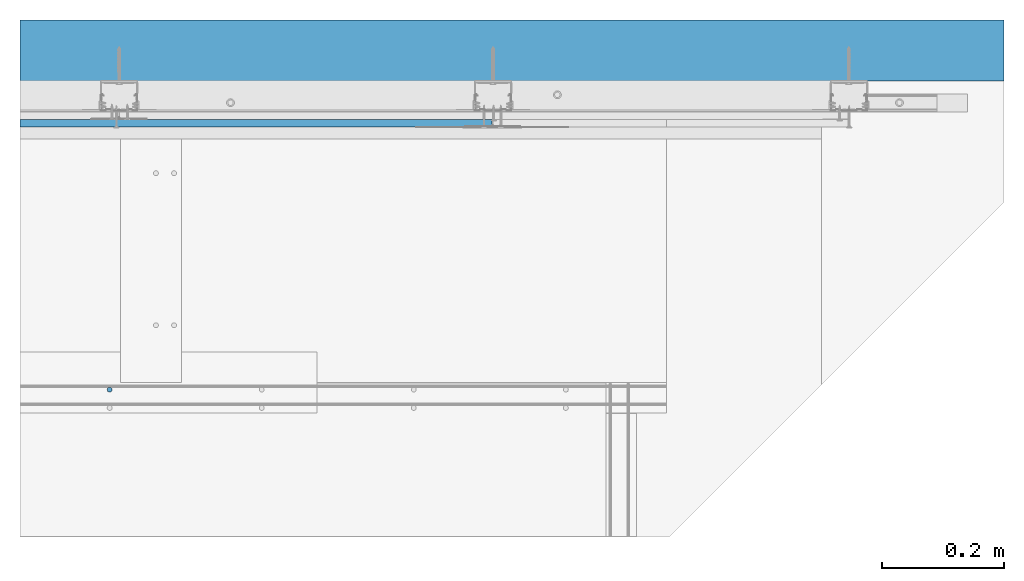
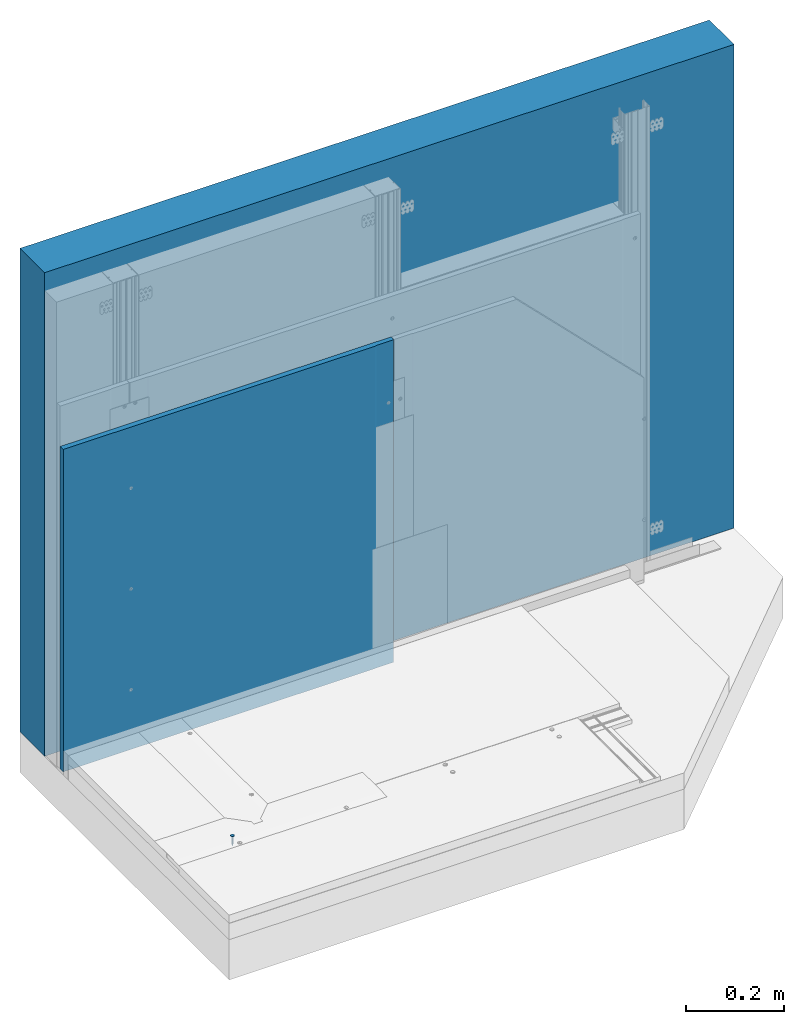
# One storey, part 13 of 47: 2 walls, 1 slab.
"""IFC2X3 building model written with IfcOpenShell, lengths in millimetres."""

from ifc_helpers import new_model, entity, si_unit, converted_unit, direction, frame, origin, origin_with_axes, place, context, project, spatial, faceted_brep, element, save


model = new_model("IFC2X3")

# Units and contexts
model_context = context("Model", 3, precision=1e-05, world=origin(), true_north=direction((0.0, 1.0, 0.0)))
ifc_project = project(units=[si_unit("LENGTHUNIT", "METRE", prefix="MILLI"), si_unit("AREAUNIT", "SQUARE_METRE"), si_unit("VOLUMEUNIT", "CUBIC_METRE"), converted_unit("PLANEANGLEUNIT", "DEGREE", entity("IfcPlaneAngleMeasure", 0.01745), si_unit("PLANEANGLEUNIT", "RADIAN"), dimensions=[0, 0, 0, 0, 0, 0, 0]), si_unit("SOLIDANGLEUNIT", "STERADIAN"), si_unit("MASSUNIT", "GRAM"), si_unit("TIMEUNIT", "SECOND"), si_unit("THERMODYNAMICTEMPERATUREUNIT", "DEGREE_CELSIUS"), si_unit("LUMINOUSINTENSITYUNIT", "LUMEN")], contexts=[model_context])

# Site, building, storey
site_placement = place(None, origin_with_axes())
site = spatial("IfcSite", under=ifc_project, at=site_placement, Name="Default Site", CompositionType="ELEMENT")
building_placement = place(site_placement, origin_with_axes())
building = spatial("IfcBuilding", under=site, at=building_placement, Name="Default Building", CompositionType="ELEMENT")
storey_placement = place(building_placement, origin_with_axes())
storey = spatial("IfcBuildingStorey", under=building, at=storey_placement, Name="Default Building Storey", CompositionType="ELEMENT", Elevation=0.0)

# Slab
slab_placement = place(storey_placement, frame((2135.048962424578, 958.3800775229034, -3328.636918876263), z_axis=(-3.700634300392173e-13, 1.0, -1.897141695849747e-12), x_axis=(-1.0, -3.700634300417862e-13, -1.354137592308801e-12)))
element("IfcSlab", 1, at=slab_placement, inside=storey, Name="Wkręt RIGIPS Rigidur 3,9x19 mm", context=model_context, shape_type="Brep", body=[
    faceted_brep([(-141.5377463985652, 3390.556721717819, 555.8000000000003), (-141.5377463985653, 3391.020944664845, 555.8000000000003), (-141.4875329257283, 3391.020944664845, 555.1619773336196), (-141.4875329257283, 3390.556721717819, 555.1619773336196), (-141.3381289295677, 3391.020944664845, 554.5396649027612), (-141.3381289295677, 3390.556721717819, 554.5396649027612), (-141.0932132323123, 3391.020944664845, 553.9483861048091), (-141.0932132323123, 3390.556721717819, 553.9483861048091), (-140.7588164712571, 3391.020944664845, 553.4027001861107), (-140.7588164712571, 3390.556721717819, 553.4027001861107), (-140.3431726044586, 3391.020944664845, 552.9160437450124), (-140.4541727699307, 3390.556721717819, 553.0314907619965), (-140.1080097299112, 3390.556721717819, 552.6986614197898), (-139.8565161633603, 3391.020944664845, 552.5003998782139), (-139.7251262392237, 3390.556721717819, 552.4088262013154), (-139.310830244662, 3391.020944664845, 552.1660031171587), (-139.310830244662, 3390.556721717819, 552.1660031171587), (-138.8708651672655, 3390.556721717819, 551.9735584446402), (-138.7195514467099, 3391.020944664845, 551.9210874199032), (-138.4113302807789, 3390.556721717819, 551.8341600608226), (-137.9385961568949, 3390.556721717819, 551.7497404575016), (-138.0972390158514, 3391.020944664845, 551.7716834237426), (-137.4592163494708, 3391.020944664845, 551.7214699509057), (-137.4592163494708, 3390.556721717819, 551.7214699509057), (-136.8211936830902, 3391.020944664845, 551.7716834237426), (-136.8211936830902, 3390.556721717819, 551.7716834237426), (-136.1988812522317, 3391.020944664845, 551.9210874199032), (-136.1988812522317, 3390.556721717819, 551.9210874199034), (-135.6076024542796, 3391.020944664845, 552.1660031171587), (-135.6076024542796, 3390.556721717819, 552.1660031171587), (-135.0619165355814, 3391.020944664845, 552.5003998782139), (-135.0619165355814, 3390.556721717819, 552.5003998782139), (-134.575260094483, 3391.020944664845, 552.9160437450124), (-134.575260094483, 3390.556721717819, 552.9160437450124), (-134.1596162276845, 3391.020944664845, 553.4027001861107), (-134.1596162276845, 3390.556721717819, 553.4027001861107), (-133.8252194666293, 3391.020944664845, 553.9483861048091), (-133.8252194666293, 3390.556721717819, 553.9483861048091), (-133.5803037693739, 3391.020944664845, 554.5396649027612), (-133.5803037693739, 3390.556721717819, 554.5396649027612), (-133.4308997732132, 3391.020944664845, 556.4380226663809), (-133.4308997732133, 3390.556721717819, 556.4380226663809), (-133.3806863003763, 3390.556721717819, 555.8000000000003), (-133.3806863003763, 3391.020944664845, 555.8000000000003), (-133.4308997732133, 3390.556721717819, 555.1619773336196), (-133.4308997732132, 3391.020944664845, 555.1619773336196), (-133.5803037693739, 3391.020944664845, 557.0603350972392), (-133.5803037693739, 3390.556721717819, 557.0603350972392), (-133.8252194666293, 3391.020944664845, 557.6516138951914), (-133.8252194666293, 3390.556721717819, 557.6516138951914), (-134.1596162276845, 3391.020944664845, 558.1972998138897), (-134.1596162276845, 3390.556721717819, 558.1972998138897), (-134.575260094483, 3391.020944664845, 558.683956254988), (-134.575260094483, 3390.556721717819, 558.683956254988), (-135.0619165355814, 3391.020944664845, 559.0996001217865), (-135.0619165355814, 3390.556721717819, 559.0996001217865), (-135.6076024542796, 3391.020944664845, 559.4339968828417), (-135.6076024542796, 3390.556721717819, 559.4339968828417), (-136.1988812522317, 3391.020944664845, 559.6789125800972), (-136.1988812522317, 3390.556721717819, 559.6789125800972), (-136.8211936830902, 3391.020944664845, 559.8283165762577), (-136.8211936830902, 3390.556721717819, 559.8283165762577), (-137.4592163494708, 3391.020944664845, 559.8785300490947), (-137.4592163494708, 3390.556721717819, 559.8785300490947), (-138.0972390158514, 3391.020944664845, 559.8283165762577), (-138.0972390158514, 3390.556721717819, 559.8283165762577), (-138.7195514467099, 3391.020944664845, 559.6789125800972), (-138.7195514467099, 3390.556721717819, 559.6789125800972), (-139.310830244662, 3391.020944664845, 559.4339968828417), (-139.310830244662, 3390.556721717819, 559.4339968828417), (-139.8565161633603, 3391.020944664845, 559.0996001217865), (-139.8565161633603, 3390.556721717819, 559.0996001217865), (-140.3431726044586, 3391.020944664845, 558.683956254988), (-140.3431726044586, 3390.556721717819, 558.683956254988), (-140.7588164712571, 3391.020944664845, 558.1972998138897), (-140.7588164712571, 3390.556721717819, 558.1972998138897), (-141.0932132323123, 3391.020944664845, 557.6516138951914), (-141.0932132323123, 3390.556721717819, 557.6516138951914), (-141.3381289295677, 3391.020944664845, 557.0603350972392), (-141.3381289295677, 3390.556721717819, 557.0603350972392), (-141.4875329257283, 3391.020944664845, 556.4380226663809), (-141.4875329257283, 3390.556721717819, 556.4380226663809), (-137.80606154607, 3388.229732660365, 554.5055560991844), (-137.4592163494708, 3387.475459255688, 554.5693795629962), (-137.6517277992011, 3387.475459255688, 554.5845305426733), (-137.4592163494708, 3388.229732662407, 554.4598930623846), (-137.8394989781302, 3387.475459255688, 554.6296104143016), (-138.1292698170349, 3388.229732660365, 554.639433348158), (-138.0179063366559, 3387.475459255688, 554.7035091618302), (-138.1825568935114, 3387.475459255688, 554.804407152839), (-138.4068150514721, 3388.229732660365, 554.8524012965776), (-138.3293964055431, 3387.475459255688, 554.929819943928), (-138.6197830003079, 3388.229732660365, 555.1299465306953), (-138.4548091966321, 3387.475459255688, 555.0766594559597), (-138.5557071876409, 3387.475459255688, 555.2413100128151), (-138.7536602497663, 3388.229732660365, 555.4531548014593), (-138.6296059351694, 3387.475459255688, 555.4197173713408), (-138.6746858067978, 3387.475459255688, 555.60748855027), (-138.7993232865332, 3388.229732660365, 555.7999999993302), (-138.6898367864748, 3387.475459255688, 555.8000000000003), (-138.753660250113, 3388.229732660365, 556.1468451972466), (-138.6746858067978, 3387.475459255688, 555.9925114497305), (-138.6296059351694, 3387.475459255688, 556.1802826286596), (-138.619783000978, 3388.229732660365, 556.4700534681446), (-138.5557071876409, 3387.475459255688, 556.3586899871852), (-138.4548091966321, 3387.475459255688, 556.5233405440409), (-138.4068150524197, 3388.229732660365, 556.7475987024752), (-138.3293964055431, 3387.475459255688, 556.6701800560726), (-138.1292698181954, 3388.229732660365, 556.9605666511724), (-138.1825568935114, 3387.475459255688, 556.7955928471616), (-138.0179063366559, 3387.475459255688, 556.8964908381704), (-137.8060615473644, 3388.229732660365, 557.0944439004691), (-137.8394989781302, 3387.475459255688, 556.9703895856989), (-137.6517277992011, 3387.475459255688, 557.0154694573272), (-137.4592163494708, 3388.229732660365, 557.1401069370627), (-137.4592163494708, 3387.475459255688, 557.0306204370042), (-137.1123711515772, 3388.229732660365, 557.0944439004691), (-137.2667048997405, 3387.475459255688, 557.0154694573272), (-137.0789337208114, 3387.475459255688, 556.9703895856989), (-136.7891628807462, 3388.229732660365, 556.9605666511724), (-136.9005263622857, 3387.475459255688, 556.8964908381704), (-136.7358758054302, 3387.475459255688, 556.7955928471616), (-136.5116176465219, 3388.229732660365, 556.7475987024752), (-136.5890362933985, 3387.475459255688, 556.6701800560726), (-136.2986496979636, 3388.229732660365, 556.4700534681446), (-136.4636235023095, 3387.475459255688, 556.5233405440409), (-136.3627255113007, 3387.475459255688, 556.3586899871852), (-136.1647724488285, 3388.229732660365, 556.1468451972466), (-136.2888267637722, 3387.475459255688, 556.1802826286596), (-136.2437468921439, 3387.475459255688, 555.9925114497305), (-136.1191094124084, 3388.229732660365, 555.7999999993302), (-136.2285959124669, 3387.475459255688, 555.8000000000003), (-136.1647724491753, 3388.229732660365, 555.4531548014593), (-136.2437468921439, 3387.475459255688, 555.60748855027), (-136.2888267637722, 3387.475459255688, 555.4197173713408), (-136.2986496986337, 3388.229732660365, 555.1299465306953), (-136.3627255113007, 3387.475459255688, 555.2413100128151), (-136.4636235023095, 3387.475459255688, 555.0766594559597), (-136.5116176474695, 3388.229732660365, 554.8524012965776), (-136.5890362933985, 3387.475459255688, 554.929819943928), (-136.7891628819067, 3388.229732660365, 554.639433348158), (-136.7358758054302, 3387.475459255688, 554.804407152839), (-136.9005263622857, 3387.475459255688, 554.7035091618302), (-137.1123711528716, 3388.229732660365, 554.5055560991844), (-137.0789337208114, 3387.475459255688, 554.6296104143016), (-137.2667048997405, 3387.475459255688, 554.5845305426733), (-137.4592163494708, 3388.936142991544, 554.1737111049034), (-137.8801308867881, 3388.936142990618, 554.229125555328), (-138.2723607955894, 3388.936142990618, 554.3915925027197), (-138.6091762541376, 3388.936142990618, 554.6500400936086), (-138.8676238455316, 3388.936142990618, 554.9868555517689), (-139.0300907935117, 3388.936142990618, 555.3790854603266), (-139.0855052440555, 3388.936142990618, 555.7999999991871), (-139.0300907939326, 3388.936142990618, 556.2209145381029), (-138.8676238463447, 3388.936142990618, 556.6131444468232), (-138.6091762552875, 3388.936142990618, 556.9499599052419), (-138.2723607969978, 3388.936142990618, 557.2084074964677), (-137.880130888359, 3388.936142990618, 557.3708744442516), (-137.4592163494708, 3388.936142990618, 557.426288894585), (-137.0383018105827, 3388.936142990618, 557.3708744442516), (-136.6460719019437, 3388.936142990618, 557.2084074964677), (-136.3092564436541, 3388.936142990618, 556.9499599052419), (-136.0508088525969, 3388.936142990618, 556.6131444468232), (-135.8883419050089, 3388.936142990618, 556.2209145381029), (-135.8329274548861, 3388.936142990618, 555.7999999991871), (-135.8883419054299, 3388.936142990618, 555.3790854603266), (-136.05080885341, 3388.936142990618, 554.9868555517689), (-136.309256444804, 3388.936142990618, 554.6500400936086), (-136.6460719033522, 3388.936142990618, 554.3915925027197), (-137.0383018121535, 3388.936142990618, 554.229125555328), (-137.4592163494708, 3389.553938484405, 553.7273431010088), (-137.9956594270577, 3389.553938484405, 553.7979671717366), (-138.4955447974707, 3389.553938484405, 554.005026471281), (-138.9248060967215, 3389.553938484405, 554.3344102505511), (-139.2541898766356, 3389.553938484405, 554.7636715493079), (-139.4612491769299, 3389.553938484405, 555.2635569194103), (-139.5318732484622, 3389.553938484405, 555.7999999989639), (-139.4612491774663, 3389.553938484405, 556.3364430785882), (-139.2541898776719, 3389.553938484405, 556.8363284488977), (-138.9248060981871, 3389.553938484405, 557.2655897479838), (-138.4955447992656, 3389.553938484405, 557.594973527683), (-137.9956594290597, 3389.553938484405, 557.8020328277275), (-137.4592163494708, 3389.553938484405, 557.8726568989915), (-136.9227732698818, 3389.553938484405, 557.8020328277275), (-136.4228878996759, 3389.553938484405, 557.594973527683), (-135.9936266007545, 3389.553938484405, 557.2655897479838), (-135.6642428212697, 3389.553938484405, 556.8363284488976), (-135.4571835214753, 3389.553938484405, 556.3364430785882), (-135.3865594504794, 3389.553938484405, 555.7999999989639), (-135.4571835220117, 3389.553938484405, 555.2635569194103), (-135.664242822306, 3389.553938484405, 554.7636715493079), (-135.9936266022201, 3389.553938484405, 554.3344102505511), (-136.4228879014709, 3389.553938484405, 554.005026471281), (-136.9227732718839, 3389.553938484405, 553.7979671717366), (-137.4592163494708, 3390.047479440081, 553.1465393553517), (-138.1459824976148, 3390.047479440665, 553.2369538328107), (-138.7859466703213, 3390.047479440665, 553.5020356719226), (-139.3354963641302, 3390.047479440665, 553.9237199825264), (-139.7571806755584, 3390.047479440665, 554.4732696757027), (-140.0222625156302, 3390.047479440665, 555.1132338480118), (-140.1126769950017, 3390.047479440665, 555.7999999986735), (-140.0222625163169, 3390.047479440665, 556.4867661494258), (-139.7571806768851, 3390.047479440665, 557.1267303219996), (-139.3354963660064, 3390.047479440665, 557.6762800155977), (-138.7859466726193, 3390.047479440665, 558.0979643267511), (-138.1459825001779, 3390.047479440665, 558.3630461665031), (-137.4592163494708, 3390.047479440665, 558.4534606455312), (-136.7724501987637, 3390.047479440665, 558.3630461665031), (-136.1324860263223, 3390.047479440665, 558.0979643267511), (-135.5829363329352, 3390.047479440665, 557.6762800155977), (-135.1612520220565, 3390.047479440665, 557.1267303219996), (-134.8961701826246, 3390.047479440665, 556.4867661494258), (-134.8057557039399, 3390.047479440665, 555.7999999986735), (-134.8961701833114, 3390.047479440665, 555.1132338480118), (-135.1612520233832, 3390.047479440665, 554.4732696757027), (-135.5829363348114, 3390.047479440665, 553.9237199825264), (-136.1324860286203, 3390.047479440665, 553.5020356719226), (-136.7724502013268, 3390.047479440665, 553.2369538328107), (-137.4592163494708, 3390.388294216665, 552.4648055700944), (-138.3224281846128, 3390.388294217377, 552.578449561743), (-139.1268135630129, 3390.388294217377, 552.9116368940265), (-139.8175549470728, 3390.388294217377, 553.4416613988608), (-140.3475794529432, 3390.388294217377, 554.1324027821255), (-140.6807667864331, 3390.388294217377, 554.9367881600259), (-140.7944107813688, 3390.388294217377, 555.7999999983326), (-140.6807667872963, 3390.388294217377, 556.6632118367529), (-140.3475794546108, 3390.388294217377, 557.4675972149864), (-139.8175549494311, 3390.388294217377, 558.1583385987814), (-139.1268135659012, 3390.388294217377, 558.6883631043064), (-138.3224281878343, 3390.388294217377, 559.0215504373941), (-137.4592163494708, 3390.388294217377, 559.1351944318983), (-136.5960045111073, 3390.388294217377, 559.0215504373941), (-135.7916191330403, 3390.388294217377, 558.6883631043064), (-135.1008777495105, 3390.388294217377, 558.1583385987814), (-134.5708532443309, 3390.388294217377, 557.4675972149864), (-134.2376659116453, 3390.388294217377, 556.6632118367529), (-134.1240219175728, 3390.388294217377, 555.7999999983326), (-134.2376659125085, 3390.388294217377, 554.9367881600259), (-134.5708532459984, 3390.388294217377, 554.1324027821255), (-135.1008777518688, 3390.388294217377, 553.4416613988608), (-135.7916191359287, 3390.388294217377, 552.9116368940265), (-136.5960045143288, 3390.388294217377, 552.578449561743), (-138.6898367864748, 3370.55807436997, 555.8000000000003), (-138.6746858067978, 3370.55807436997, 555.60748855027), (-138.6296059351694, 3370.55807436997, 555.4197173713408), (-138.5557071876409, 3370.55807436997, 555.2413100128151), (-138.4548091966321, 3370.55807436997, 555.0766594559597), (-138.3293964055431, 3370.55807436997, 554.929819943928), (-138.1825568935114, 3370.55807436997, 554.804407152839), (-138.0179063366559, 3370.55807436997, 554.7035091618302), (-137.8394989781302, 3370.55807436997, 554.6296104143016), (-137.6517277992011, 3370.55807436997, 554.5845305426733), (-137.4592163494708, 3370.55807436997, 554.5693795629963), (-137.2667048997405, 3370.55807436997, 554.5845305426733), (-137.0789337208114, 3370.55807436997, 554.6296104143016), (-136.9005263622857, 3370.55807436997, 554.7035091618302), (-136.7358758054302, 3370.55807436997, 554.804407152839), (-136.5890362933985, 3370.55807436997, 554.929819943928), (-136.4636235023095, 3370.55807436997, 555.0766594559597), (-136.3627255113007, 3370.55807436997, 555.2413100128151), (-136.2888267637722, 3370.55807436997, 555.4197173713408), (-136.2437468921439, 3370.55807436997, 555.9925114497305), (-136.2285959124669, 3370.55807436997, 555.8000000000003), (-136.2437468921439, 3370.55807436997, 555.60748855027), (-136.2888267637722, 3370.55807436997, 556.1802826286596), (-136.3627255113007, 3370.55807436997, 556.3586899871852), (-136.4636235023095, 3370.55807436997, 556.5233405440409), (-136.5890362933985, 3370.55807436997, 556.6701800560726), (-136.7358758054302, 3370.55807436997, 556.7955928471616), (-136.9005263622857, 3370.55807436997, 556.8964908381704), (-137.0789337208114, 3370.55807436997, 556.9703895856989), (-137.2667048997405, 3370.55807436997, 557.0154694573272), (-137.4592163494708, 3370.55807436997, 557.0306204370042), (-137.6517277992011, 3370.55807436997, 557.0154694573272), (-137.8394989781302, 3370.55807436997, 556.9703895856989), (-138.0179063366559, 3370.55807436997, 556.8964908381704), (-138.1825568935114, 3370.55807436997, 556.7955928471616), (-138.3293964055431, 3370.55807436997, 556.6701800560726), (-138.4548091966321, 3370.55807436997, 556.5233405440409), (-138.5557071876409, 3370.55807436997, 556.3586899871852), (-138.6296059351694, 3370.55807436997, 556.1802826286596), (-138.6746858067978, 3370.55807436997, 555.9925114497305), (-137.4592163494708, 3366.021033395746, 555.8000000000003), (-139.9592163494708, 3391.020944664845, 556.3000000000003), (-137.9592163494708, 3391.020944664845, 556.3000000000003), (-139.9592163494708, 3391.020944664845, 555.3000000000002), (-137.9592163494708, 3391.020944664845, 555.3000000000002), (-137.9592163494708, 3391.020944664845, 553.3000000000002), (-136.9592163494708, 3391.020944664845, 553.3000000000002), (-136.9592163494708, 3391.020944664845, 555.3000000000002), (-134.9592163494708, 3391.020944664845, 555.3000000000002), (-134.9592163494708, 3391.020944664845, 556.3000000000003), (-136.9592163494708, 3391.020944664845, 556.3000000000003), (-136.9592163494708, 3391.020944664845, 558.3000000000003), (-137.9592163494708, 3391.020944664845, 558.3000000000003), (-136.9592163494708, 3390.128974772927, 556.3000000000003), (-134.9592163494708, 3390.128974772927, 556.3000000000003), (-134.9592163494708, 3390.128974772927, 555.3000000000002), (-136.9592163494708, 3390.128974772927, 555.3000000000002), (-136.9592163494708, 3390.128974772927, 553.3000000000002), (-137.9592163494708, 3390.128974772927, 553.3000000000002), (-137.9592163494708, 3390.128974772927, 555.3000000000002), (-139.9592163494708, 3390.128974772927, 555.3000000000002), (-139.9592163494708, 3390.128974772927, 556.3000000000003), (-137.9592163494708, 3390.128974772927, 556.3000000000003), (-137.9592163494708, 3390.128974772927, 558.3000000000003), (-136.9592163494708, 3390.128974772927, 558.3000000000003)], [[[0, 1, 2, 3]], [[4, 5, 3, 2]], [[6, 7, 5, 4]], [[7, 6, 8, 9]], [[8, 10, 9]], [[10, 11, 9]], [[12, 11, 13]], [[11, 10, 13]], [[13, 14, 12]], [[13, 15, 14]], [[15, 16, 14]], [[17, 16, 18]], [[16, 15, 18]], [[18, 19, 17]], [[20, 19, 21]], [[19, 18, 21]], [[21, 22, 20]], [[22, 23, 20]], [[23, 22, 24, 25]], [[26, 27, 25, 24]], [[28, 29, 27, 26]], [[29, 28, 30, 31]], [[32, 33, 31, 30]], [[33, 32, 34, 35]], [[36, 37, 35, 34]], [[38, 39, 37, 36]], [[40, 41, 42, 43]], [[43, 42, 44, 45]], [[39, 38, 45, 44]], [[46, 47, 41, 40]], [[48, 49, 47, 46]], [[49, 48, 50, 51]], [[52, 53, 51, 50]], [[53, 52, 54, 55]], [[56, 57, 55, 54]], [[58, 59, 57, 56]], [[59, 58, 60, 61]], [[62, 63, 61, 60]], [[63, 62, 64, 65]], [[66, 67, 65, 64]], [[68, 69, 67, 66]], [[69, 68, 70, 71]], [[72, 73, 71, 70]], [[73, 72, 74, 75]], [[76, 77, 75, 74]], [[78, 79, 77, 76]], [[79, 78, 80, 81]], [[1, 0, 81, 80]], [[82, 83, 84]], [[82, 85, 83]], [[84, 86, 82]], [[82, 86, 87]], [[88, 87, 86]], [[87, 88, 89]], [[89, 90, 87]], [[89, 91, 90]], [[92, 91, 93]], [[92, 90, 91]], [[93, 94, 92]], [[92, 94, 95]], [[96, 95, 94]], [[95, 96, 97]], [[97, 98, 95]], [[97, 99, 98]], [[100, 99, 101]], [[100, 98, 99]], [[101, 102, 100]], [[100, 102, 103]], [[104, 103, 102]], [[103, 104, 105]], [[105, 106, 103]], [[105, 107, 106]], [[108, 107, 109]], [[108, 106, 107]], [[109, 110, 108]], [[108, 110, 111]], [[112, 111, 110]], [[111, 112, 113]], [[113, 114, 111]], [[113, 115, 114]], [[116, 115, 117]], [[116, 114, 115]], [[117, 118, 116]], [[116, 118, 119]], [[120, 119, 118]], [[119, 120, 121]], [[121, 122, 119]], [[121, 123, 122]], [[124, 123, 125]], [[124, 122, 123]], [[125, 126, 124]], [[124, 126, 127]], [[128, 127, 126]], [[127, 128, 129]], [[129, 130, 127]], [[129, 131, 130]], [[132, 131, 133]], [[132, 130, 131]], [[133, 134, 132]], [[132, 134, 135]], [[136, 135, 134]], [[135, 136, 137]], [[137, 138, 135]], [[137, 139, 138]], [[140, 139, 141]], [[140, 138, 139]], [[141, 142, 140]], [[140, 142, 143]], [[144, 143, 142]], [[143, 144, 145]], [[145, 85, 143]], [[145, 83, 85]], [[146, 85, 147]], [[82, 147, 85]], [[87, 148, 147, 82]], [[90, 149, 148, 87]], [[92, 150, 149, 90]], [[95, 151, 150, 92]], [[98, 152, 151, 95]], [[100, 153, 152, 98]], [[103, 154, 153, 100]], [[106, 155, 154, 103]], [[108, 156, 155, 106]], [[111, 157, 156, 108]], [[114, 158, 157, 111]], [[116, 159, 158, 114]], [[119, 160, 159, 116]], [[122, 161, 160, 119]], [[124, 162, 161, 122]], [[127, 163, 162, 124]], [[130, 164, 163, 127]], [[132, 165, 164, 130]], [[135, 166, 165, 132]], [[138, 167, 166, 135]], [[140, 168, 167, 138]], [[143, 169, 168, 140]], [[143, 85, 169]], [[146, 169, 85]], [[170, 146, 171]], [[147, 171, 146]], [[148, 172, 171, 147]], [[149, 173, 172, 148]], [[150, 174, 173, 149]], [[151, 175, 174, 150]], [[152, 176, 175, 151]], [[153, 177, 176, 152]], [[154, 178, 177, 153]], [[155, 179, 178, 154]], [[156, 180, 179, 155]], [[157, 181, 180, 156]], [[158, 182, 181, 157]], [[159, 183, 182, 158]], [[160, 184, 183, 159]], [[161, 185, 184, 160]], [[162, 186, 185, 161]], [[163, 187, 186, 162]], [[164, 188, 187, 163]], [[165, 189, 188, 164]], [[166, 190, 189, 165]], [[167, 191, 190, 166]], [[168, 192, 191, 167]], [[169, 193, 192, 168]], [[169, 146, 193]], [[170, 193, 146]], [[194, 170, 195]], [[171, 195, 170]], [[172, 196, 195, 171]], [[173, 197, 196, 172]], [[174, 198, 197, 173]], [[175, 199, 198, 174]], [[176, 200, 199, 175]], [[177, 201, 200, 176]], [[178, 202, 201, 177]], [[179, 203, 202, 178]], [[180, 204, 203, 179]], [[181, 205, 204, 180]], [[182, 206, 205, 181]], [[183, 207, 206, 182]], [[184, 208, 207, 183]], [[185, 209, 208, 184]], [[186, 210, 209, 185]], [[187, 211, 210, 186]], [[188, 212, 211, 187]], [[189, 213, 212, 188]], [[190, 214, 213, 189]], [[191, 215, 214, 190]], [[192, 216, 215, 191]], [[193, 217, 216, 192]], [[193, 170, 217]], [[194, 217, 170]], [[218, 19, 20]], [[218, 219, 19]], [[20, 23, 218]], [[218, 194, 219]], [[195, 219, 194]], [[219, 16, 17]], [[219, 220, 16]], [[17, 19, 219]], [[196, 220, 219, 195]], [[221, 11, 12]], [[220, 12, 14]], [[220, 221, 12]], [[14, 16, 220]], [[197, 221, 220, 196]], [[222, 7, 9]], [[9, 221, 222]], [[9, 11, 221]], [[198, 222, 221, 197]], [[5, 7, 223]], [[222, 223, 7]], [[199, 223, 222, 198]], [[223, 0, 3]], [[223, 224, 0]], [[3, 5, 223]], [[200, 224, 223, 199]], [[225, 79, 81]], [[81, 224, 225]], [[81, 0, 224]], [[201, 225, 224, 200]], [[225, 226, 77, 79]], [[202, 226, 225, 201]], [[226, 73, 75]], [[226, 227, 73]], [[75, 77, 226]], [[203, 227, 226, 202]], [[228, 69, 71]], [[71, 227, 228]], [[71, 73, 227]], [[204, 228, 227, 203]], [[228, 229, 67, 69]], [[205, 229, 228, 204]], [[229, 63, 65]], [[229, 230, 63]], [[65, 67, 229]], [[206, 230, 229, 205]], [[231, 59, 61]], [[61, 230, 231]], [[61, 63, 230]], [[207, 231, 230, 206]], [[231, 232, 57, 59]], [[208, 232, 231, 207]], [[232, 53, 55]], [[232, 233, 53]], [[55, 57, 232]], [[209, 233, 232, 208]], [[234, 49, 51]], [[51, 233, 234]], [[51, 53, 233]], [[210, 234, 233, 209]], [[234, 235, 47, 49]], [[211, 235, 234, 210]], [[235, 42, 41]], [[235, 236, 42]], [[41, 47, 235]], [[212, 236, 235, 211]], [[237, 39, 44]], [[44, 236, 237]], [[44, 42, 236]], [[213, 237, 236, 212]], [[37, 39, 238]], [[237, 238, 39]], [[214, 238, 237, 213]], [[238, 33, 35]], [[238, 239, 33]], [[35, 37, 238]], [[215, 239, 238, 214]], [[240, 29, 31]], [[31, 239, 240]], [[31, 33, 239]], [[216, 240, 239, 215]], [[27, 29, 241]], [[240, 241, 29]], [[217, 241, 240, 216]], [[217, 194, 241]], [[218, 241, 194]], [[241, 23, 25]], [[241, 218, 23]], [[25, 27, 241]], [[242, 99, 97, 243]], [[96, 244, 243, 97]], [[94, 245, 244, 96]], [[245, 94, 93, 246]], [[91, 247, 246, 93]], [[247, 91, 89, 248]], [[88, 249, 248, 89]], [[86, 250, 249, 88]], [[250, 86, 84, 251]], [[83, 252, 251, 84]], [[252, 83, 145, 253]], [[144, 254, 253, 145]], [[142, 255, 254, 144]], [[255, 142, 141, 256]], [[139, 257, 256, 141]], [[257, 139, 137, 258]], [[136, 259, 258, 137]], [[134, 260, 259, 136]], [[129, 261, 262, 131]], [[131, 262, 263, 133]], [[260, 134, 133, 263]], [[128, 264, 261, 129]], [[126, 265, 264, 128]], [[265, 126, 125, 266]], [[123, 267, 266, 125]], [[267, 123, 121, 268]], [[120, 269, 268, 121]], [[118, 270, 269, 120]], [[270, 118, 117, 271]], [[115, 272, 271, 117]], [[272, 115, 113, 273]], [[112, 274, 273, 113]], [[110, 275, 274, 112]], [[275, 110, 109, 276]], [[107, 277, 276, 109]], [[277, 107, 105, 278]], [[104, 279, 278, 105]], [[102, 280, 279, 104]], [[280, 102, 101, 281]], [[99, 242, 281, 101]], [[243, 244, 282]], [[282, 242, 243]], [[244, 245, 282]], [[246, 247, 282]], [[282, 245, 246]], [[248, 249, 282]], [[282, 247, 248]], [[249, 250, 282]], [[251, 252, 282]], [[282, 250, 251]], [[253, 254, 282]], [[282, 252, 253]], [[254, 255, 282]], [[256, 257, 282]], [[282, 255, 256]], [[258, 259, 282]], [[282, 257, 258]], [[259, 260, 282]], [[263, 262, 282]], [[282, 260, 263]], [[261, 264, 282]], [[282, 262, 261]], [[264, 265, 282]], [[266, 267, 282]], [[282, 265, 266]], [[268, 269, 282]], [[282, 267, 268]], [[269, 270, 282]], [[271, 272, 282]], [[282, 270, 271]], [[273, 274, 282]], [[282, 272, 273]], [[274, 275, 282]], [[276, 277, 282]], [[282, 275, 276]], [[278, 279, 282]], [[282, 277, 278]], [[279, 280, 282]], [[281, 242, 282]], [[282, 280, 281]], [[283, 76, 74, 284]], [[283, 285, 286, 287, 288, 289, 290, 291, 292, 293, 294, 284, 74, 72, 70, 68, 66, 64, 62, 60, 58, 56, 54, 52, 50, 48, 46, 40, 43, 45, 38, 36, 34, 32, 30, 28, 26, 24, 22, 21, 18, 15, 13, 10, 8, 6, 4, 2, 1, 80, 78, 76]], [[295, 296, 297, 298, 299, 300, 301, 302, 303, 304, 305, 306]], [[297, 290, 289, 298]], [[296, 291, 290, 297]], [[295, 292, 291, 296]], [[306, 293, 292, 295]], [[305, 294, 293, 306]], [[304, 284, 294, 305]], [[303, 283, 284, 304]], [[302, 285, 283, 303]], [[301, 286, 285, 302]], [[300, 287, 286, 301]], [[299, 288, 287, 300]], [[298, 289, 288, 299]]]),
])

# Walls
wall_1_placement = place(storey_placement, frame((3516.951496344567, -1288.142300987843, 6.584025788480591), z_axis=(7.620176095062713e-14, 6.858158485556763e-13, 1.0), x_axis=(1.0, 9.714451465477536e-17, -7.62017609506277e-14)))
element("IfcWall", 2, at=wall_1_placement, inside=storey, Name="ŚCIANA", context=model_context, shape_type="Brep", body=[
    faceted_brep([(-1391.926362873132, 3410.283223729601, -4.2000000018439), (226.0891218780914, 3410.283223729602, -4.20000000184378), (226.0891218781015, 3310.283223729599, -4.200000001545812), (-1391.926362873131, 3310.283223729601, -4.200000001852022), (226.0891218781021, 3310.283223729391, 1195.799999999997), (-1391.926362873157, 3310.283223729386, 1195.800000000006), (226.0891218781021, 3410.28322372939, 1195.799999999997), (-1391.926362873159, 3410.28322372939, 1195.8)], [[[0, 1, 2, 3]], [[3, 2, 4, 5]], [[6, 7, 5, 4]], [[4, 2, 1, 6]], [[0, 7, 6, 1]], [[0, 3, 5, 7]]]),
])
wall_2_placement = place(storey_placement, frame((2901.506370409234, 1958.680077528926, 1059.999999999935), z_axis=(0.0, 0.0, 1.0), x_axis=(-1.0, 6.389333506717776e-13, 0.0)))
element("IfcWall", 3, at=wall_2_placement, inside=storey, Name="Płyta gipsowo-kartonowa RIGIPS PRO (4PRO™)", context=model_context, shape_type="Brep", body=[
    faceted_brep([(776.4812369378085, 12.49999999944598, -249.9999999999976), (776.4812369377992, -5.262734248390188e-10, -249.9999999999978), (776.4812369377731, -5.230248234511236e-10, -1050.001581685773), (776.4812369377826, 12.49999999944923, -1050.001581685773), (44.99999999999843, 12.50000000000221, -249.9999999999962), (40.99999999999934, 11.50000000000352, -249.9999999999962), (0.9999999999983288, 11.50000000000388, -249.9999999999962), (0.7411809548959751, 11.46592582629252, -249.9999999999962), (0.4999999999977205, 11.3660254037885, -249.9999999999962), (0.29289321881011, 11.20710678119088, -249.9999999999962), (0.1339745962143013, 11.00000000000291, -249.9999999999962), (0.03407417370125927, 10.7588190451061, -249.9999999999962), (-2.526689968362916e-12, 10.50000000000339, -249.9999999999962), (0.0, 0.0, -249.9999999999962), (44.99999999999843, 12.50000000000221, -1050.001581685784), (40.99999999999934, 11.50000000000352, -1050.001581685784), (0.9999999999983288, 11.50000000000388, -1050.001581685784), (0.7411809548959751, 11.46592582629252, -1050.001581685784), (0.4999999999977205, 11.3660254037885, -1050.001581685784), (0.29289321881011, 11.20710678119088, -1050.001581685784), (0.1339745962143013, 11.00000000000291, -1050.001581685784), (0.03407417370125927, 10.7588190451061, -1050.001581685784), (-2.526689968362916e-12, 10.50000000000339, -1050.001581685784), (0.0, 0.0, -1050.001581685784)], [[[0, 1, 2, 3]], [[0, 4, 5, 6, 7, 8, 9, 10, 11, 12, 13, 1]], [[3, 14, 4, 0]], [[5, 4, 14, 15]], [[6, 5, 15, 16]], [[7, 6, 16, 17]], [[8, 7, 17, 18]], [[9, 8, 18, 19]], [[10, 9, 19, 20]], [[11, 10, 20, 21]], [[12, 11, 21, 22]], [[13, 12, 22, 23]], [[2, 1, 13, 23]], [[14, 3, 2, 23, 22, 21, 20, 19, 18, 17, 16, 15]]]),
])

save(model, "model.ifc")
